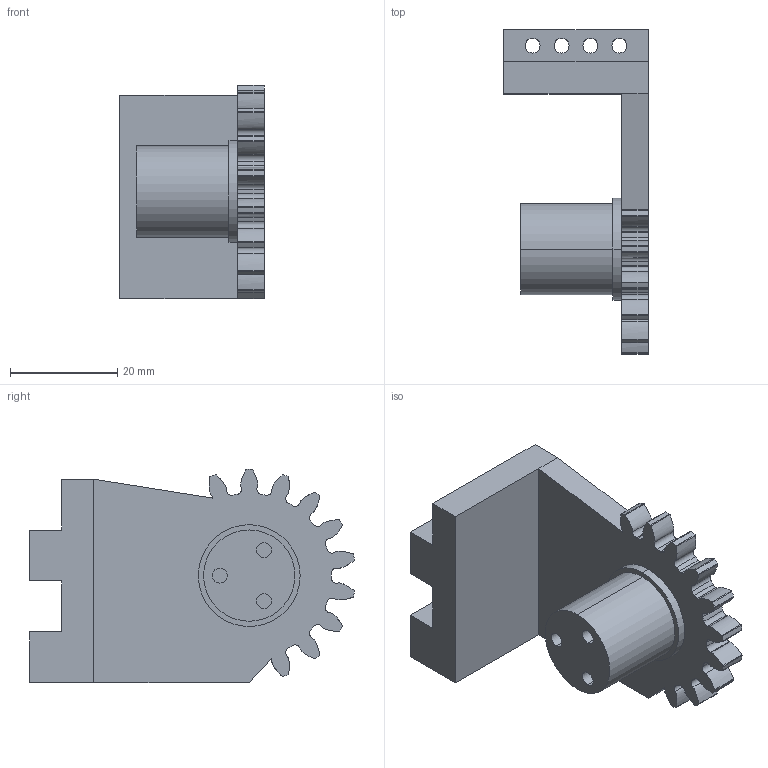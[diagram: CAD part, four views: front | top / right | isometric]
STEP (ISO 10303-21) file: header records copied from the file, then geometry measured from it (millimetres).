
FILE_DESCRIPTION (( 'STEP AP214' ), '1' );
FILE_NAME ('Gripper_template_DRIVEN.STEP', '2020-08-29T12:57:00', ( '' ), ( '' ), 'SwSTEP 2.0', 'SolidWorks 2020', '' );
FILE_SCHEMA (( 'AUTOMOTIVE_DESIGN' ));
Length unit declared in the file: millimetre
Products named in the file (1): Gripper_template_DRIVEN
Bounding box: 27 x 60.63 x 39.85 mm (x, y, z)
Volume: 20670.2 mm3; surface area: 9353.7 mm2
Topology: 1 solids, 1 shells, 136 faces, 386 edges, 257 vertices
Faces by surface type: cylinder 94, plane 22, bspline 20
Entity records: 5496 total; most frequent: CARTESIAN_POINT 1840, ORIENTED_EDGE 772, DIRECTION 768, EDGE_CURVE 386, AXIS2_PLACEMENT_3D 305, VERTEX_POINT 257, CIRCLE 188, LINE 158
